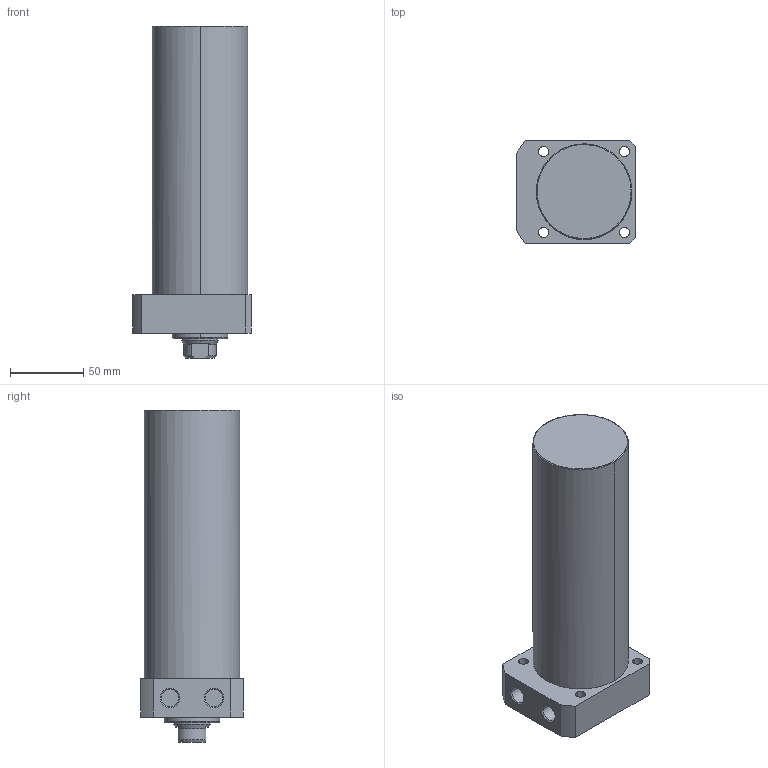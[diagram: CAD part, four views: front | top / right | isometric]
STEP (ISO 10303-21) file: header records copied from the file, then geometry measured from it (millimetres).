
FILE_DESCRIPTION((' '),'2;1');
FILE_NAME( 'TLLR-065CA-150.STEP.stp', '2025-10-24T16:34:55', (' '), ('--- Datakit www.datakit.com---'), ' Datakit CrossCadWare V2024.1 Dec 21 2023', 'Mastercam 2025', ' ');
FILE_SCHEMA(('AUTOMOTIVE_DESIGN { 1 0 10303 214 1 1 1 1 }'));
Length unit declared in the file: millimetre
Products named in the file (1): TLLR-065CA-150
Bounding box: 81 x 70 x 226 mm (x, y, z)
Volume: 751223.2 mm3; surface area: 61799 mm2
Topology: 1 solids, 1 shells, 63 faces, 179 edges, 124 vertices
Faces by surface type: cylinder 28, plane 19, cone 14, torus 2
Entity records: 2174 total; most frequent: DIRECTION 402, CARTESIAN_POINT 397, ORIENTED_EDGE 354, EDGE_CURVE 177, AXIS2_PLACEMENT_3D 169, VERTEX_POINT 124, CIRCLE 105, EDGE_LOOP 79
